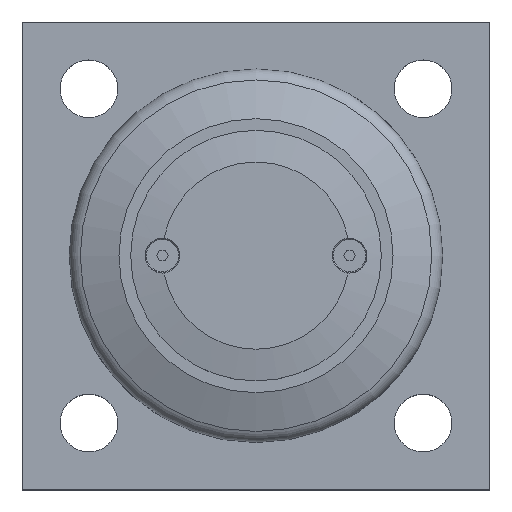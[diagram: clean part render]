
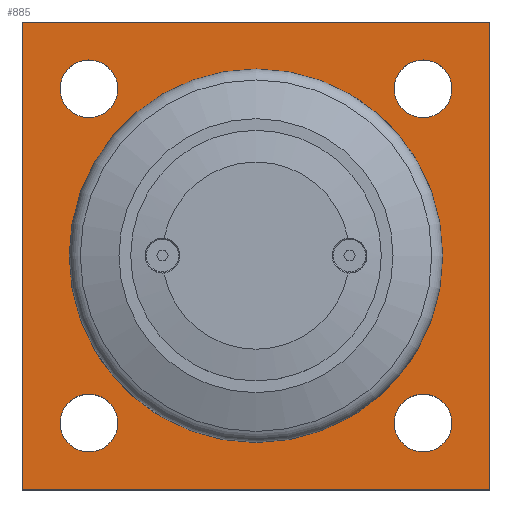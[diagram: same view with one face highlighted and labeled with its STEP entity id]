
A CAD part, top view. The second image highlights one B-rep face of the part: STEP entity #885.
In plain terms, the highlighted planar face has unit normal (0, 0, 1).
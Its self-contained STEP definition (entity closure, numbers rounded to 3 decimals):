
#45=FACE_BOUND('',#196,.T.);
#46=FACE_BOUND('',#197,.T.);
#47=FACE_BOUND('',#198,.T.);
#48=FACE_BOUND('',#199,.T.);
#49=FACE_BOUND('',#200,.T.);
#98=CIRCLE('',#995,35.);
#99=CIRCLE('',#997,8.647);
#100=CIRCLE('',#998,8.647);
#101=CIRCLE('',#999,8.647);
#102=CIRCLE('',#1000,8.647);
#103=CIRCLE('',#1001,8.647);
#104=CIRCLE('',#1002,8.647);
#105=CIRCLE('',#1003,8.647);
#106=CIRCLE('',#1004,8.647);
#142=FACE_OUTER_BOUND('',#195,.T.);
#195=EDGE_LOOP('',(#728,#729,#730,#731));
#196=EDGE_LOOP('',(#732));
#197=EDGE_LOOP('',(#733,#734));
#198=EDGE_LOOP('',(#735,#736));
#199=EDGE_LOOP('',(#737,#738));
#200=EDGE_LOOP('',(#739,#740));
#255=LINE('',#1540,#321);
#256=LINE('',#1542,#322);
#257=LINE('',#1544,#323);
#258=LINE('',#1545,#324);
#321=VECTOR('',#1208,10.);
#322=VECTOR('',#1209,10.);
#323=VECTOR('',#1210,10.);
#324=VECTOR('',#1211,10.);
#410=VERTEX_POINT('',#1534);
#411=VERTEX_POINT('',#1538);
#412=VERTEX_POINT('',#1539);
#413=VERTEX_POINT('',#1541);
#414=VERTEX_POINT('',#1543);
#415=VERTEX_POINT('',#1546);
#416=VERTEX_POINT('',#1547);
#417=VERTEX_POINT('',#1550);
#418=VERTEX_POINT('',#1551);
#419=VERTEX_POINT('',#1554);
#420=VERTEX_POINT('',#1555);
#421=VERTEX_POINT('',#1558);
#422=VERTEX_POINT('',#1559);
#523=EDGE_CURVE('',#410,#410,#98,.T.);
#524=EDGE_CURVE('',#411,#412,#255,.T.);
#525=EDGE_CURVE('',#413,#411,#256,.T.);
#526=EDGE_CURVE('',#414,#413,#257,.T.);
#527=EDGE_CURVE('',#412,#414,#258,.T.);
#528=EDGE_CURVE('',#415,#416,#99,.T.);
#529=EDGE_CURVE('',#416,#415,#100,.T.);
#530=EDGE_CURVE('',#417,#418,#101,.T.);
#531=EDGE_CURVE('',#418,#417,#102,.T.);
#532=EDGE_CURVE('',#419,#420,#103,.T.);
#533=EDGE_CURVE('',#420,#419,#104,.T.);
#534=EDGE_CURVE('',#421,#422,#105,.T.);
#535=EDGE_CURVE('',#422,#421,#106,.T.);
#728=ORIENTED_EDGE('',*,*,#524,.F.);
#729=ORIENTED_EDGE('',*,*,#525,.F.);
#730=ORIENTED_EDGE('',*,*,#526,.F.);
#731=ORIENTED_EDGE('',*,*,#527,.F.);
#732=ORIENTED_EDGE('',*,*,#523,.T.);
#733=ORIENTED_EDGE('',*,*,#528,.T.);
#734=ORIENTED_EDGE('',*,*,#529,.T.);
#735=ORIENTED_EDGE('',*,*,#530,.T.);
#736=ORIENTED_EDGE('',*,*,#531,.T.);
#737=ORIENTED_EDGE('',*,*,#532,.T.);
#738=ORIENTED_EDGE('',*,*,#533,.T.);
#739=ORIENTED_EDGE('',*,*,#534,.T.);
#740=ORIENTED_EDGE('',*,*,#535,.T.);
#842=PLANE('',#996);
#885=ADVANCED_FACE('',(#142,#45,#46,#47,#48,#49),#842,.T.);
#995=AXIS2_PLACEMENT_3D('',#1536,#1204,#1205);
#996=AXIS2_PLACEMENT_3D('',#1537,#1206,#1207);
#997=AXIS2_PLACEMENT_3D('',#1548,#1212,#1213);
#998=AXIS2_PLACEMENT_3D('',#1549,#1214,#1215);
#999=AXIS2_PLACEMENT_3D('',#1552,#1216,#1217);
#1000=AXIS2_PLACEMENT_3D('',#1553,#1218,#1219);
#1001=AXIS2_PLACEMENT_3D('',#1556,#1220,#1221);
#1002=AXIS2_PLACEMENT_3D('',#1557,#1222,#1223);
#1003=AXIS2_PLACEMENT_3D('',#1560,#1224,#1225);
#1004=AXIS2_PLACEMENT_3D('',#1561,#1226,#1227);
#1204=DIRECTION('center_axis',(0.,0.,-1.));
#1205=DIRECTION('ref_axis',(-1.,0.,0.));
#1206=DIRECTION('center_axis',(0.,0.,1.));
#1207=DIRECTION('ref_axis',(1.,0.,0.));
#1208=DIRECTION('',(0.,1.,0.));
#1209=DIRECTION('',(-1.,0.,0.));
#1210=DIRECTION('',(0.,-1.,0.));
#1211=DIRECTION('',(1.,0.,0.));
#1212=DIRECTION('center_axis',(0.,0.,-1.));
#1213=DIRECTION('ref_axis',(1.,0.,0.));
#1214=DIRECTION('center_axis',(0.,0.,-1.));
#1215=DIRECTION('ref_axis',(1.,0.,0.));
#1216=DIRECTION('center_axis',(0.,0.,-1.));
#1217=DIRECTION('ref_axis',(1.,0.,0.));
#1218=DIRECTION('center_axis',(0.,0.,-1.));
#1219=DIRECTION('ref_axis',(1.,0.,0.));
#1220=DIRECTION('center_axis',(0.,0.,-1.));
#1221=DIRECTION('ref_axis',(1.,0.,0.));
#1222=DIRECTION('center_axis',(0.,0.,-1.));
#1223=DIRECTION('ref_axis',(1.,0.,0.));
#1224=DIRECTION('center_axis',(0.,0.,-1.));
#1225=DIRECTION('ref_axis',(1.,0.,0.));
#1226=DIRECTION('center_axis',(0.,0.,-1.));
#1227=DIRECTION('ref_axis',(1.,0.,0.));
#1534=CARTESIAN_POINT('',(105.,70.,20.));
#1536=CARTESIAN_POINT('Origin',(70.,70.,20.));
#1537=CARTESIAN_POINT('Origin',(70.,70.,20.));
#1538=CARTESIAN_POINT('',(0.,0.,20.));
#1539=CARTESIAN_POINT('',(0.,140.,20.));
#1540=CARTESIAN_POINT('',(0.,140.,20.));
#1541=CARTESIAN_POINT('',(140.,0.,20.));
#1542=CARTESIAN_POINT('',(0.,0.,20.));
#1543=CARTESIAN_POINT('',(140.,140.,20.));
#1544=CARTESIAN_POINT('',(140.,0.,20.));
#1545=CARTESIAN_POINT('',(140.,140.,20.));
#1546=CARTESIAN_POINT('',(28.647,120.,20.));
#1547=CARTESIAN_POINT('',(11.353,120.,20.));
#1548=CARTESIAN_POINT('Origin',(20.,120.,20.));
#1549=CARTESIAN_POINT('Origin',(20.,120.,20.));
#1550=CARTESIAN_POINT('',(128.647,120.,20.));
#1551=CARTESIAN_POINT('',(111.353,120.,20.));
#1552=CARTESIAN_POINT('Origin',(120.,120.,20.));
#1553=CARTESIAN_POINT('Origin',(120.,120.,20.));
#1554=CARTESIAN_POINT('',(128.647,20.,20.));
#1555=CARTESIAN_POINT('',(111.353,20.,20.));
#1556=CARTESIAN_POINT('Origin',(120.,20.,20.));
#1557=CARTESIAN_POINT('Origin',(120.,20.,20.));
#1558=CARTESIAN_POINT('',(28.647,20.,20.));
#1559=CARTESIAN_POINT('',(11.353,20.,20.));
#1560=CARTESIAN_POINT('Origin',(20.,20.,20.));
#1561=CARTESIAN_POINT('Origin',(20.,20.,20.));
